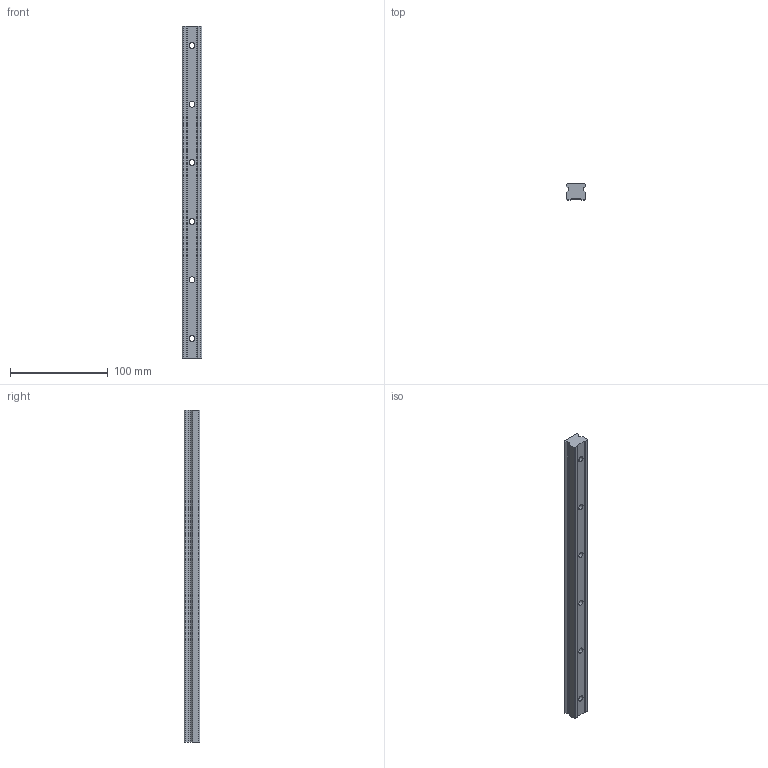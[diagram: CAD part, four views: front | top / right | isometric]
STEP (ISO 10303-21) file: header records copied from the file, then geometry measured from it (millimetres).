
FILE_DESCRIPTION (( 'STEP AP203' ), '1' );
FILE_NAME ('L1016.BL20-0340.step', '2019-06-12T11:46:06', ( '' ), ( '' ), 'SwSTEP 2.0', 'SolidWorks 2017', '' );
FILE_SCHEMA (( 'CONFIG_CONTROL_DESIGN' ));
Length unit declared in the file: millimetre
Products named in the file (1): L1016.BL20-0340
Bounding box: 20 x 16.3 x 340 mm (x, y, z)
Volume: 94276.2 mm3; surface area: 27959.4 mm2
Topology: 1 solids, 1 shells, 56 faces, 144 edges, 96 vertices
Faces by surface type: cylinder 28, plane 28
Entity records: 1825 total; most frequent: DIRECTION 314, CARTESIAN_POINT 297, ORIENTED_EDGE 288, EDGE_CURVE 144, AXIS2_PLACEMENT_3D 113, VERTEX_POINT 96, VECTOR 88, LINE 88
